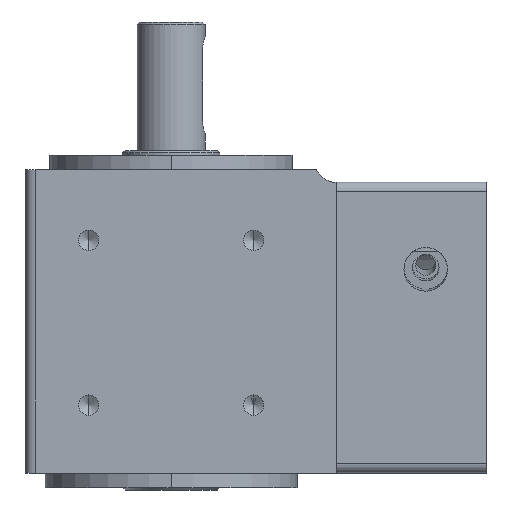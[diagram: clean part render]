
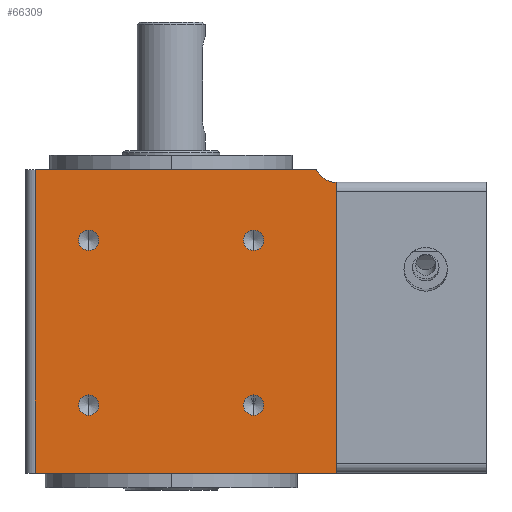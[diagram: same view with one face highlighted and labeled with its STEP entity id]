
A CAD part, left-side view. The second image highlights one B-rep face of the part: STEP entity #66309.
In plain terms, the highlighted planar face has unit normal (-1, 0, 0).
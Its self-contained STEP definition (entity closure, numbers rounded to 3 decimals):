
#175 = EDGE_CURVE ( 'NONE', #46532, #48747, #66815, .T. ) ;
#437 = DIRECTION ( 'NONE',  ( 0., 0., 1. ) ) ;
#514 = EDGE_CURVE ( 'NONE', #63293, #50993, #55541, .T. ) ;
#1892 = CIRCLE ( 'NONE', #42049, 2.1 ) ;
#2071 = CARTESIAN_POINT ( 'NONE',  ( -30., 0., 3. ) ) ;
#2658 = DIRECTION ( 'NONE',  ( 0., 0., 1. ) ) ;
#2972 = VECTOR ( 'NONE', #66479, 1000. ) ;
#3525 = CARTESIAN_POINT ( 'NONE',  ( -30., 19., 17. ) ) ;
#3854 = AXIS2_PLACEMENT_3D ( 'NONE', #21976, #58124, #27179 ) ;
#3968 = FACE_BOUND ( 'NONE', #61437, .T. ) ;
#4333 = LINE ( 'NONE', #63030, #30622 ) ;
#5114 = VERTEX_POINT ( 'NONE', #24499 ) ;
#6966 = EDGE_CURVE ( 'NONE', #67041, #18244, #1892, .T. ) ;
#7256 = ORIENTED_EDGE ( 'NONE', *, *, #37385, .F. ) ;
#8805 = DIRECTION ( 'NONE',  ( 0., 0., 1. ) ) ;
#9797 = EDGE_CURVE ( 'NONE', #12797, #65993, #52331, .T. ) ;
#10775 = EDGE_CURVE ( 'NONE', #48747, #46532, #64373, .T. ) ;
#11232 = ORIENTED_EDGE ( 'NONE', *, *, #47399, .F. ) ;
#11292 = DIRECTION ( 'NONE',  ( 0., -1., 0. ) ) ;
#11557 = EDGE_LOOP ( 'NONE', ( #13251, #22853, #7256, #61208, #60601 ) ) ;
#12014 = DIRECTION ( 'NONE',  ( 1., 0., 0. ) ) ;
#12797 = VERTEX_POINT ( 'NONE', #15471 ) ;
#13102 = ORIENTED_EDGE ( 'NONE', *, *, #51315, .F. ) ;
#13251 = ORIENTED_EDGE ( 'NONE', *, *, #61035, .T. ) ;
#15471 = CARTESIAN_POINT ( 'NONE',  ( -30., -15., 14.9 ) ) ;
#16260 = CARTESIAN_POINT ( 'NONE',  ( -30., -15., 48.9 ) ) ;
#18007 = FACE_BOUND ( 'NONE', #60892, .T. ) ;
#18244 = VERTEX_POINT ( 'NONE', #24020 ) ;
#18332 = DIRECTION ( 'NONE',  ( -1., 0., 0. ) ) ;
#18470 = CARTESIAN_POINT ( 'NONE',  ( -30., 30., 3. ) ) ;
#21367 = AXIS2_PLACEMENT_3D ( 'NONE', #22042, #58187, #27254 ) ;
#21912 = DIRECTION ( 'NONE',  ( -1., 0., 0. ) ) ;
#21976 = CARTESIAN_POINT ( 'NONE',  ( -30., -32., 67.45 ) ) ;
#22042 = CARTESIAN_POINT ( 'NONE',  ( -30., -15., 17. ) ) ;
#22239 = DIRECTION ( 'NONE',  ( -1., 0., 0. ) ) ;
#22660 = EDGE_CURVE ( 'NONE', #23197, #51733, #4333, .T. ) ;
#22853 = ORIENTED_EDGE ( 'NONE', *, *, #22660, .F. ) ;
#23197 = VERTEX_POINT ( 'NONE', #44205 ) ;
#23744 = ORIENTED_EDGE ( 'NONE', *, *, #38198, .F. ) ;
#24020 = CARTESIAN_POINT ( 'NONE',  ( -30., 19., 48.9 ) ) ;
#24035 = CARTESIAN_POINT ( 'NONE',  ( -30., -15., 19.1 ) ) ;
#24499 = CARTESIAN_POINT ( 'NONE',  ( -30., -32., 62.95 ) ) ;
#24883 = LINE ( 'NONE', #31886, #40230 ) ;
#25194 = CARTESIAN_POINT ( 'NONE',  ( -30., 30., 68.5 ) ) ;
#25711 = CIRCLE ( 'NONE', #3854, 4.5 ) ;
#27179 = DIRECTION ( 'NONE',  ( 0., 0., 1. ) ) ;
#27254 = DIRECTION ( 'NONE',  ( 0., 0., 1. ) ) ;
#27378 = CARTESIAN_POINT ( 'NONE',  ( -30., -32., 68.5 ) ) ;
#27962 = CARTESIAN_POINT ( 'NONE',  ( -30., 19., 17. ) ) ;
#27969 = CIRCLE ( 'NONE', #28736, 2.1 ) ;
#28668 = VECTOR ( 'NONE', #33490, 1000. ) ;
#28736 = AXIS2_PLACEMENT_3D ( 'NONE', #49416, #18332, #54590 ) ;
#29012 = EDGE_LOOP ( 'NONE', ( #34884, #11232 ) ) ;
#30452 = DIRECTION ( 'NONE',  ( -1., 0., 0. ) ) ;
#30492 = AXIS2_PLACEMENT_3D ( 'NONE', #61356, #30452, #66524 ) ;
#30622 = VECTOR ( 'NONE', #11292, 1000. ) ;
#31513 = ORIENTED_EDGE ( 'NONE', *, *, #10775, .F. ) ;
#31877 = FACE_BOUND ( 'NONE', #32252, .T. ) ;
#31886 = CARTESIAN_POINT ( 'NONE',  ( -30., -32., 68.5 ) ) ;
#32252 = EDGE_LOOP ( 'NONE', ( #23744, #56090 ) ) ;
#32596 = FACE_BOUND ( 'NONE', #29012, .T. ) ;
#32830 = PLANE ( 'NONE',  #59852 ) ;
#33198 = DIRECTION ( 'NONE',  ( 0., 0., 1. ) ) ;
#33490 = DIRECTION ( 'NONE',  ( 0., 1., 0. ) ) ;
#33566 = CARTESIAN_POINT ( 'NONE',  ( -30., -32., 3. ) ) ;
#34052 = DIRECTION ( 'NONE',  ( -1., 0., 0. ) ) ;
#34884 = ORIENTED_EDGE ( 'NONE', *, *, #514, .F. ) ;
#37231 = CARTESIAN_POINT ( 'NONE',  ( -30., 19., 19.1 ) ) ;
#37385 = EDGE_CURVE ( 'NONE', #39597, #23197, #59930, .T. ) ;
#38198 = EDGE_CURVE ( 'NONE', #65993, #12797, #46163, .T. ) ;
#39563 = AXIS2_PLACEMENT_3D ( 'NONE', #3525, #40060, #8805 ) ;
#39597 = VERTEX_POINT ( 'NONE', #18470 ) ;
#40060 = DIRECTION ( 'NONE',  ( -1., 0., 0. ) ) ;
#40230 = VECTOR ( 'NONE', #437, 1000. ) ;
#40323 = CIRCLE ( 'NONE', #60169, 2.1 ) ;
#42049 = AXIS2_PLACEMENT_3D ( 'NONE', #64953, #34052, #2658 ) ;
#42376 = LINE ( 'NONE', #2071, #28668 ) ;
#43655 = ORIENTED_EDGE ( 'NONE', *, *, #6966, .F. ) ;
#44205 = CARTESIAN_POINT ( 'NONE',  ( -30., 30., 65.5 ) ) ;
#46163 = CIRCLE ( 'NONE', #64502, 2.1 ) ;
#46531 = AXIS2_PLACEMENT_3D ( 'NONE', #53213, #22239, #58388 ) ;
#46532 = VERTEX_POINT ( 'NONE', #16260 ) ;
#46720 = VERTEX_POINT ( 'NONE', #33566 ) ;
#47191 = CARTESIAN_POINT ( 'NONE',  ( -30., -15., 53.1 ) ) ;
#47399 = EDGE_CURVE ( 'NONE', #50993, #63293, #40323, .T. ) ;
#48398 = DIRECTION ( 'NONE',  ( 0., 0., -1. ) ) ;
#48747 = VERTEX_POINT ( 'NONE', #47191 ) ;
#49416 = CARTESIAN_POINT ( 'NONE',  ( -30., 19., 51. ) ) ;
#50993 = VERTEX_POINT ( 'NONE', #51919 ) ;
#51315 = EDGE_CURVE ( 'NONE', #18244, #67041, #27969, .T. ) ;
#51399 = ORIENTED_EDGE ( 'NONE', *, *, #175, .F. ) ;
#51733 = VERTEX_POINT ( 'NONE', #63096 ) ;
#51919 = CARTESIAN_POINT ( 'NONE',  ( -30., 19., 14.9 ) ) ;
#52331 = CIRCLE ( 'NONE', #21367, 2.1 ) ;
#52889 = CARTESIAN_POINT ( 'NONE',  ( -30., -15., 17. ) ) ;
#53213 = CARTESIAN_POINT ( 'NONE',  ( -30., -15., 51. ) ) ;
#54590 = DIRECTION ( 'NONE',  ( 0., 0., 1. ) ) ;
#55541 = CIRCLE ( 'NONE', #39563, 2.1 ) ;
#55724 = CARTESIAN_POINT ( 'NONE',  ( -30., 19., 53.1 ) ) ;
#56090 = ORIENTED_EDGE ( 'NONE', *, *, #9797, .F. ) ;
#58063 = DIRECTION ( 'NONE',  ( 0., 0., 1. ) ) ;
#58124 = DIRECTION ( 'NONE',  ( 1., 0., 0. ) ) ;
#58187 = DIRECTION ( 'NONE',  ( -1., 0., 0. ) ) ;
#58388 = DIRECTION ( 'NONE',  ( 0., 0., 1. ) ) ;
#58421 = FACE_OUTER_BOUND ( 'NONE', #11557, .T. ) ;
#59852 = AXIS2_PLACEMENT_3D ( 'NONE', #27378, #12014, #48398 ) ;
#59930 = LINE ( 'NONE', #25194, #2972 ) ;
#60169 = AXIS2_PLACEMENT_3D ( 'NONE', #27962, #64105, #33198 ) ;
#60601 = ORIENTED_EDGE ( 'NONE', *, *, #61566, .T. ) ;
#60892 = EDGE_LOOP ( 'NONE', ( #43655, #13102 ) ) ;
#61035 = EDGE_CURVE ( 'NONE', #5114, #51733, #25711, .T. ) ;
#61208 = ORIENTED_EDGE ( 'NONE', *, *, #64439, .F. ) ;
#61356 = CARTESIAN_POINT ( 'NONE',  ( -30., -15., 51. ) ) ;
#61437 = EDGE_LOOP ( 'NONE', ( #31513, #51399 ) ) ;
#61566 = EDGE_CURVE ( 'NONE', #46720, #5114, #24883, .T. ) ;
#63030 = CARTESIAN_POINT ( 'NONE',  ( -30., 0., 65.5 ) ) ;
#63096 = CARTESIAN_POINT ( 'NONE',  ( -30., -27.944, 65.5 ) ) ;
#63293 = VERTEX_POINT ( 'NONE', #37231 ) ;
#64105 = DIRECTION ( 'NONE',  ( -1., 0., 0. ) ) ;
#64373 = CIRCLE ( 'NONE', #46531, 2.1 ) ;
#64439 = EDGE_CURVE ( 'NONE', #46720, #39597, #42376, .T. ) ;
#64502 = AXIS2_PLACEMENT_3D ( 'NONE', #52889, #21912, #58063 ) ;
#64953 = CARTESIAN_POINT ( 'NONE',  ( -30., 19., 51. ) ) ;
#65993 = VERTEX_POINT ( 'NONE', #24035 ) ;
#66309 = ADVANCED_FACE ( 'NONE', ( #58421, #31877, #32596, #18007, #3968 ), #32830, .F. ) ;
#66479 = DIRECTION ( 'NONE',  ( 0., 0., 1. ) ) ;
#66524 = DIRECTION ( 'NONE',  ( 0., 0., 1. ) ) ;
#66815 = CIRCLE ( 'NONE', #30492, 2.1 ) ;
#67041 = VERTEX_POINT ( 'NONE', #55724 ) ;
